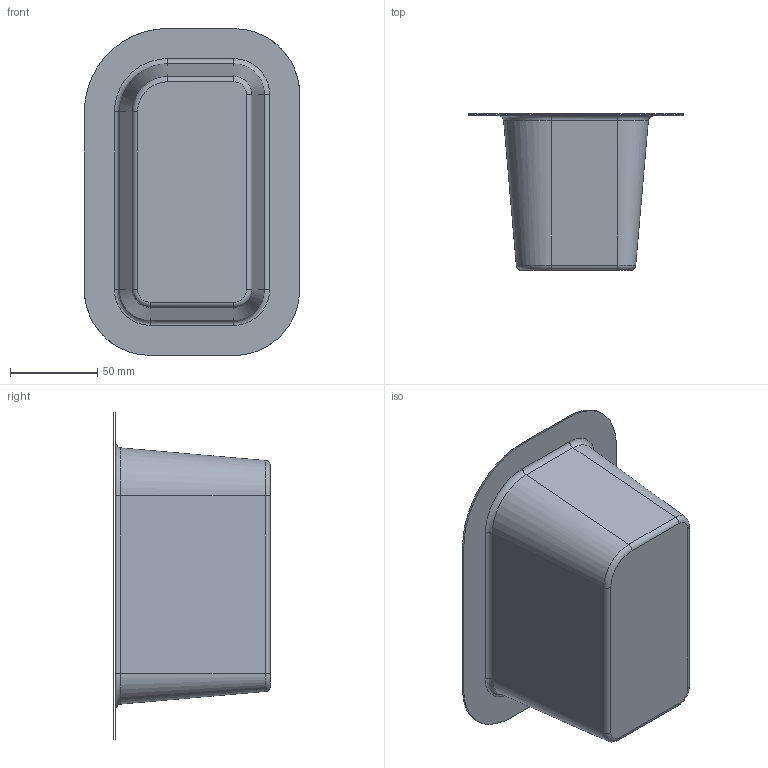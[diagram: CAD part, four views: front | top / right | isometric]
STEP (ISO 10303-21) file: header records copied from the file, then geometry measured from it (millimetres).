
FILE_DESCRIPTION(('CATIA V5 STEP Exchange'),'2;1');
FILE_NAME('C:\_Andres\UNIVERSIDAD\IQS\ASIGNATURAS\DAO\Controles\1617\c3\2inicio\Sarasa_Prat_control3_v32.stp','2017-02-17T14:22:14+00:00',('none'),('none'),'CATIA Version 5-6 Release 2014 SP1 HF18','CATIA V5 STEP AP203','none');
FILE_SCHEMA(('CONFIG_CONTROL_DESIGN'));
Length unit declared in the file: millimetre
Products named in the file (1): Sarasa_Prat_control3_v32
Bounding box: 123.51 x 89.66 x 187.51 mm (x, y, z)
Surface area: 75396.1 mm2 (no closed solid volume)
Topology: 0 solids, 2 shells, 27 faces, 80 edges, 57 vertices
Faces by surface type: bspline 16, cylinder 8, plane 3
Entity records: 2042 total; most frequent: CARTESIAN_POINT 1446, ORIENTED_EDGE 128, EDGE_CURVE 72, B_SPLINE_CURVE_WITH_KNOTS 54, DIRECTION 50, VERTEX_POINT 48, EDGE_LOOP 28, ADVANCED_FACE 27
